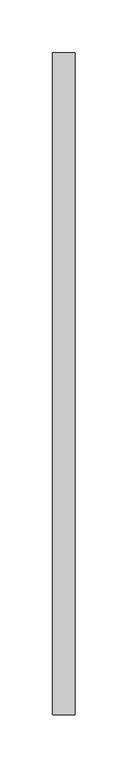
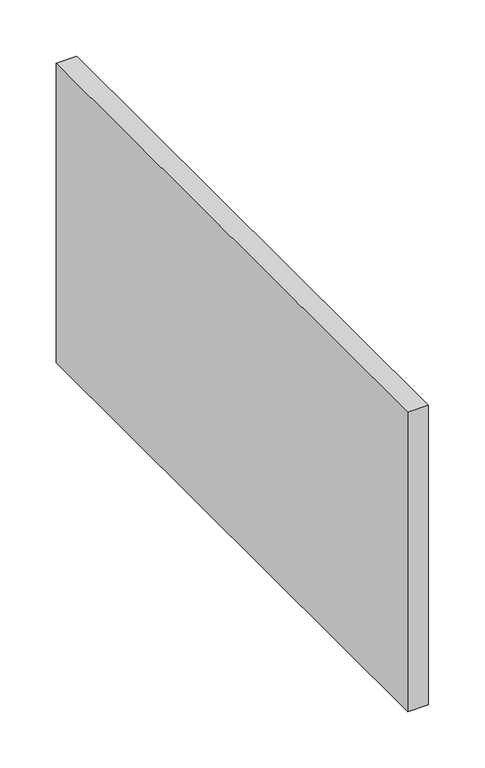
"""IFC4 building model written with IfcOpenShell, lengths in millimetres: duct fitting geometry, MEP_15.03 Injerto Conducte : Mínimo."""

from ifc_helpers import new_model, si_unit, frame, origin, place, context, project, spatial, polyline, outline, extrude, source, transform, mapped, element, save


def duct_fitting_1f4aa960(model_context):
    return source(origin(), model_context, "Body", "SweptSolid", [
        extrude(outline(polyline([(-6.096, 312.5), (15.0, 312.5), (15.0, -312.5), (-6.096, -312.5), (-6.096, 312.5)])), frame((0.0, 0.0, -162.5), z_axis=(0.0, 0.0, 1.0), x_axis=(1.0, 0.0, 0.0)), (0.0, 0.0, 1.0), 325.0),
    ])


if __name__ == "__main__":
    model = new_model("IFC4")
    model_context = context("Model", 3, world=origin())
    ifc_project = project(units=[si_unit("LENGTHUNIT", "METRE", prefix="MILLI")], contexts=[model_context])
    site = spatial("IfcSite", under=ifc_project)
    building = spatial("IfcBuilding", under=site)
    placement = place(None, origin())
    duct_fitting_shape = duct_fitting_1f4aa960(model_context)
    element("IfcDuctFitting", 1, ObjectType="MEP_15.03 Injerto Conducte : Mínimo", at=placement, inside=building, context=model_context, shape_type="MappedRepresentation", body=[
        mapped(duct_fitting_shape, transform((0.0, 0.0, 0.0), x_axis=(1.0, 0.0, 0.0), y_axis=(0.0, 1.0, 0.0), z_axis=(0.0, 0.0, 1.0))),
    ])
    save(model, "model.ifc")
